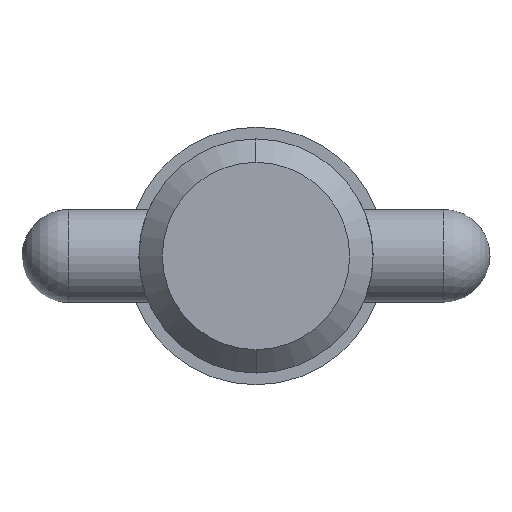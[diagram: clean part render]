
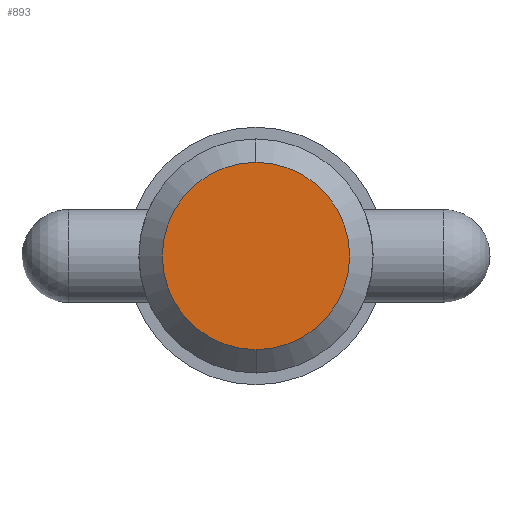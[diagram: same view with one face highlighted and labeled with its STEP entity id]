
A CAD part, left-side view. The second image highlights one B-rep face of the part: STEP entity #893.
In plain terms, the highlighted planar face has unit normal (-1, 0, 0).
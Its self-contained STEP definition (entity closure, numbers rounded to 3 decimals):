
#5 = AXIS2_PLACEMENT_3D ( 'NONE', #751, #724, #1057 ) ;
#35 = VERTEX_POINT ( 'NONE', #446 ) ;
#225 = EDGE_CURVE ( 'NONE', #35, #960, #1017, .T. ) ;
#247 = CARTESIAN_POINT ( 'NONE',  ( 0., 0., 0. ) ) ;
#269 = EDGE_LOOP ( 'NONE', ( #529, #426 ) ) ;
#289 = DIRECTION ( 'NONE',  ( 0., 0., -1. ) ) ;
#379 = PLANE ( 'NONE',  #913 ) ;
#426 = ORIENTED_EDGE ( 'NONE', *, *, #477, .F. ) ;
#446 = CARTESIAN_POINT ( 'NONE',  ( 0., 0., -6.352 ) ) ;
#470 = AXIS2_PLACEMENT_3D ( 'NONE', #943, #794, #289 ) ;
#474 = FACE_OUTER_BOUND ( 'NONE', #269, .T. ) ;
#477 = EDGE_CURVE ( 'NONE', #960, #35, #564, .T. ) ;
#529 = ORIENTED_EDGE ( 'NONE', *, *, #225, .F. ) ;
#564 = CIRCLE ( 'NONE', #470, 6.352 ) ;
#661 = DIRECTION ( 'NONE',  ( -1., 0., 0. ) ) ;
#724 = DIRECTION ( 'NONE',  ( 1., 0., 0. ) ) ;
#737 = CARTESIAN_POINT ( 'NONE',  ( 0., 0., 6.352 ) ) ;
#751 = CARTESIAN_POINT ( 'NONE',  ( 0., 0., 0. ) ) ;
#794 = DIRECTION ( 'NONE',  ( 1., 0., 0. ) ) ;
#893 = ADVANCED_FACE ( 'NONE', ( #474 ), #379, .T. ) ;
#913 = AXIS2_PLACEMENT_3D ( 'NONE', #247, #661, #973 ) ;
#943 = CARTESIAN_POINT ( 'NONE',  ( 0., 0., 0. ) ) ;
#960 = VERTEX_POINT ( 'NONE', #737 ) ;
#973 = DIRECTION ( 'NONE',  ( 0., 0., 1. ) ) ;
#1017 = CIRCLE ( 'NONE', #5, 6.352 ) ;
#1057 = DIRECTION ( 'NONE',  ( 0., 0., -1. ) ) ;
